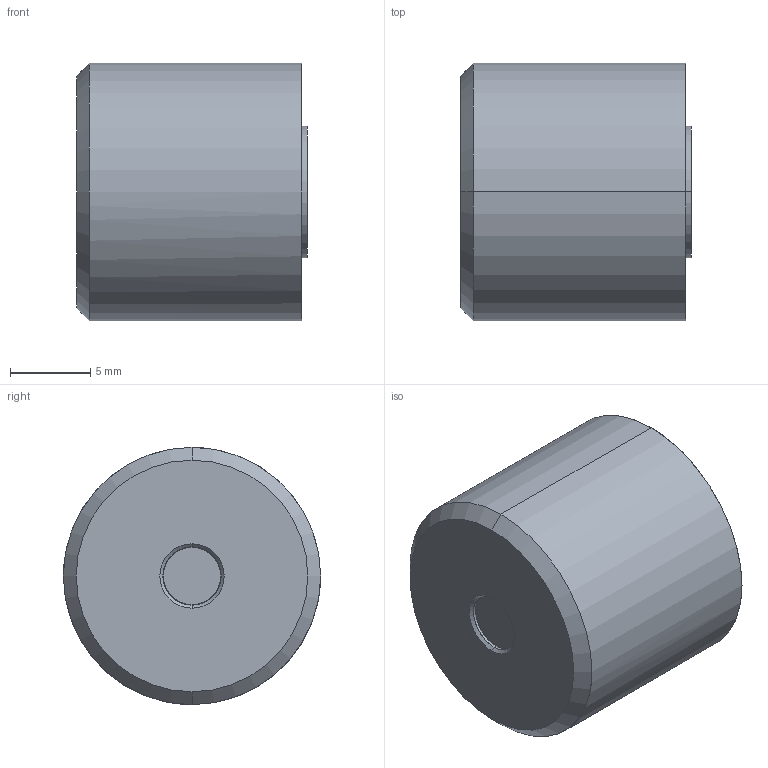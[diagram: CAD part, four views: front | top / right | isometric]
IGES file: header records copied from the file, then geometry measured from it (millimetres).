
Start section: START RECORD GO HERE.
Global section: file name: D374-16-A-DM-FA.igs; native system: DASSAULT SYSTEMES CATIA V5 R20 - www.3ds.com; preprocessor: CATIA Version 5 Release 20 ; author: Utente; organization: NB04-ASUS; date: 20210330.123055; units: millimetre
Bounding box: 14.35 x 16 x 16 mm (x, y, z)
Surface area: 1741.5 mm2 (no closed solid volume)
Topology: 0 solids, 0 shells, 222 faces, 1228 edges, 1224 vertices
Faces by surface type: plane 137, revolution 85
